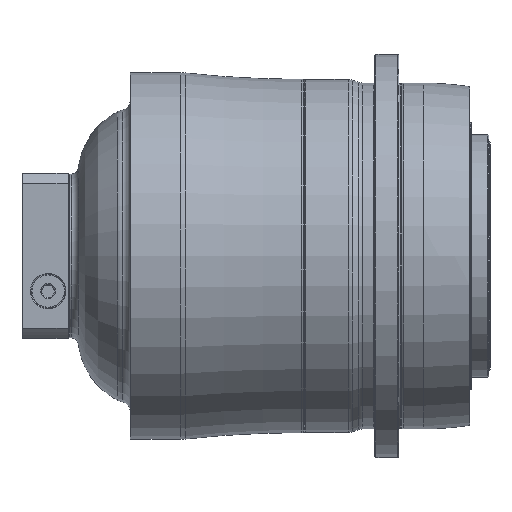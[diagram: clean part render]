
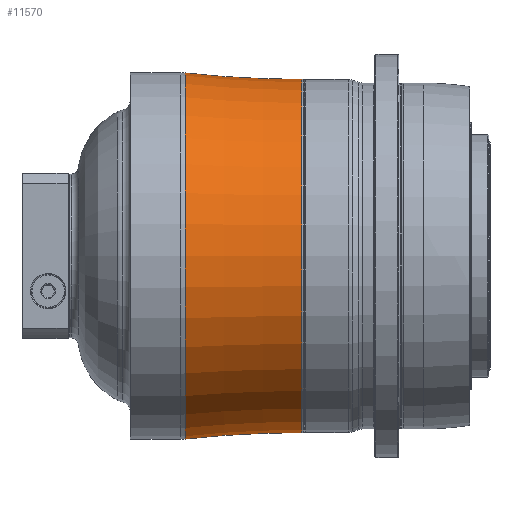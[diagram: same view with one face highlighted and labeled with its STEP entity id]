
A CAD part, top view. The second image highlights one B-rep face of the part: STEP entity #11570.
In plain terms, the highlighted toroidal (fillet/blend) face has major radius 1021.34 mm and minor radius 875.841 mm.
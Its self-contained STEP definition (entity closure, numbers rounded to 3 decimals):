
#11100=CARTESIAN_POINT('',(-95.396,0.,0.));
#11101=DIRECTION('',(1.,0.,0.));
#11102=DIRECTION('',(0.,1.,0.));
#11103=AXIS2_PLACEMENT_3D('',#11100,#11101,#11102);
#11105=CARTESIAN_POINT('',(-191.5,0.,0.));
#11106=DIRECTION('',(1.,0.,0.));
#11107=DIRECTION('',(0.,1.,0.));
#11108=AXIS2_PLACEMENT_3D('',#11105,#11106,#11107);
#11115=CARTESIAN_POINT('',(-191.5,1021.341,0.));
#11116=DIRECTION('',(0.,0.,1.));
#11117=DIRECTION('',(0.,-1.,0.));
#11118=AXIS2_PLACEMENT_3D('',#11115,#11116,#11117);
#11125=CARTESIAN_POINT('',(-191.5,-1021.341,0.));
#11126=DIRECTION('',(0.,0.,-1.));
#11127=DIRECTION('',(0.,1.,0.));
#11128=AXIS2_PLACEMENT_3D('',#11125,#11126,#11127);
#11184=CARTESIAN_POINT('',(-191.5,145.5,0.));
#11185=VERTEX_POINT('',#11184);
#11186=CARTESIAN_POINT('',(-191.5,-145.5,0.));
#11187=VERTEX_POINT('',#11186);
#11224=CARTESIAN_POINT('',(-95.396,150.789,
0.));
#11225=CARTESIAN_POINT('',(-95.396,-150.789,0.));
#11226=VERTEX_POINT('',#11224);
#11227=VERTEX_POINT('',#11225);
#11556=CARTESIAN_POINT('',(-191.5,0.,0.));
#11557=DIRECTION('',(1.,0.,0.));
#11558=DIRECTION('',(0.,-1.,0.));
#11559=AXIS2_PLACEMENT_3D('',#11556,#11557,#11558);
#11560=TOROIDAL_SURFACE('',#11559,1021.341,875.841);
#11561=ORIENTED_EDGE('',*,*,#11550,.T.);
#11563=ORIENTED_EDGE('',*,*,#11562,.F.);
#11565=ORIENTED_EDGE('',*,*,#11564,.F.);
#11567=ORIENTED_EDGE('',*,*,#11566,.T.);
#11568=EDGE_LOOP('',(#11561,#11563,#11565,#11567));
#11569=FACE_OUTER_BOUND('',#11568,.F.);
#11570=ADVANCED_FACE('',(#11569),#11560,.F.);
#11104=CIRCLE('',#11103,150.789);
#11109=CIRCLE('',#11108,145.5);
#11119=CIRCLE('',#11118,875.841);
#11129=CIRCLE('',#11128,875.841);
#11550=EDGE_CURVE('',#11226,#11227,#11104,.T.);
#11562=EDGE_CURVE('',#11187,#11227,#11129,.T.);
#11564=EDGE_CURVE('',#11185,#11187,#11109,.T.);
#11566=EDGE_CURVE('',#11185,#11226,#11119,.T.);
